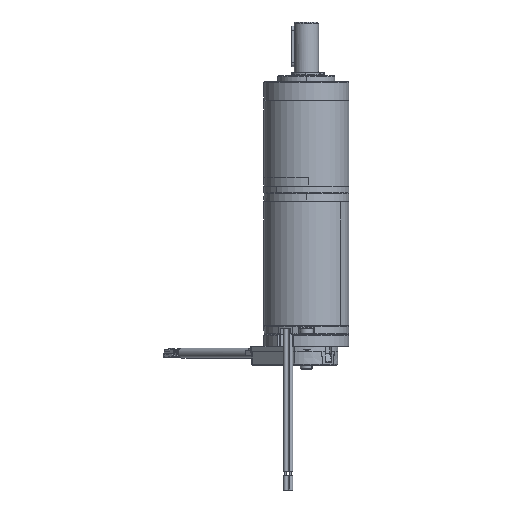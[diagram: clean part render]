
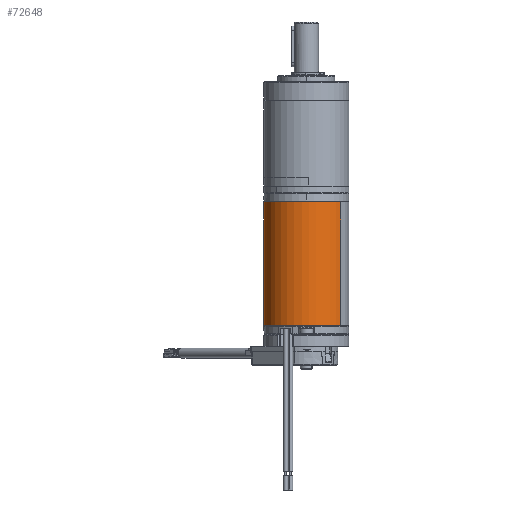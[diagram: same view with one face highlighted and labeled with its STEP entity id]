
A CAD part, left-side view. The second image highlights one B-rep face of the part: STEP entity #72648.
In plain terms, the highlighted cylindrical face has radius 21 mm (diameter 42 mm), a partial arc.
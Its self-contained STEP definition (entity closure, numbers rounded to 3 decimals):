
#993 = DIRECTION ( 'NONE',  ( 0., 0., -1. ) ) ;
#2806 = DIRECTION ( 'NONE',  ( 0., 0., -1. ) ) ;
#6337 = CARTESIAN_POINT ( 'NONE',  ( 5.131, -8.599, 22.935 ) ) ;
#9031 = ORIENTED_EDGE ( 'NONE', *, *, #141922, .F. ) ;
#9353 = ORIENTED_EDGE ( 'NONE', *, *, #127215, .T. ) ;
#33055 = FACE_OUTER_BOUND ( 'NONE', #158868, .T. ) ;
#33321 = DIRECTION ( 'NONE',  ( 0., 0., 1. ) ) ;
#39688 = VERTEX_POINT ( 'NONE', #119058 ) ;
#60987 = CARTESIAN_POINT ( 'NONE',  ( -7.378, -25.468, 61.785 ) ) ;
#62898 = CIRCLE ( 'NONE', #139431, 21. ) ;
#63348 = CARTESIAN_POINT ( 'NONE',  ( 17.639, 8.269, 1.085 ) ) ;
#72648 = ADVANCED_FACE ( 'NONE', ( #33055 ), #88424, .T. ) ;
#75133 = VERTEX_POINT ( 'NONE', #156072 ) ;
#80029 = VERTEX_POINT ( 'NONE', #60987 ) ;
#88424 = CYLINDRICAL_SURFACE ( 'NONE', #116368, 21. ) ;
#89320 = DIRECTION ( 'NONE',  ( 0., 0., -1. ) ) ;
#90583 = ORIENTED_EDGE ( 'NONE', *, *, #121015, .T. ) ;
#92246 = ORIENTED_EDGE ( 'NONE', *, *, #151448, .T. ) ;
#102980 = CIRCLE ( 'NONE', #123447, 21. ) ;
#105720 = CARTESIAN_POINT ( 'NONE',  ( 17.639, 8.269, 22.935 ) ) ;
#106729 = CARTESIAN_POINT ( 'NONE',  ( -7.378, -25.468, 22.935 ) ) ;
#107806 = VECTOR ( 'NONE', #993, 1000. ) ;
#115249 = DIRECTION ( 'NONE',  ( 0.596, 0.803, 0. ) ) ;
#116368 = AXIS2_PLACEMENT_3D ( 'NONE', #6337, #89320, #145581 ) ;
#119058 = CARTESIAN_POINT ( 'NONE',  ( 17.639, 8.269, 61.785 ) ) ;
#121015 = EDGE_CURVE ( 'NONE', #39688, #121899, #127240, .T. ) ;
#121899 = VERTEX_POINT ( 'NONE', #63348 ) ;
#123447 = AXIS2_PLACEMENT_3D ( 'NONE', #142978, #2806, #115249 ) ;
#127215 = EDGE_CURVE ( 'NONE', #121899, #75133, #62898, .T. ) ;
#127240 = LINE ( 'NONE', #105720, #107806 ) ;
#132041 = DIRECTION ( 'NONE',  ( 0.596, 0.803, 0. ) ) ;
#139431 = AXIS2_PLACEMENT_3D ( 'NONE', #158782, #33321, #132041 ) ;
#141922 = EDGE_CURVE ( 'NONE', #80029, #75133, #160230, .T. ) ;
#142978 = CARTESIAN_POINT ( 'NONE',  ( 5.131, -8.599, 61.785 ) ) ;
#145581 = DIRECTION ( 'NONE',  ( -0.596, -0.803, 0. ) ) ;
#151448 = EDGE_CURVE ( 'NONE', #80029, #39688, #102980, .T. ) ;
#156072 = CARTESIAN_POINT ( 'NONE',  ( -7.378, -25.468, 1.085 ) ) ;
#157058 = VECTOR ( 'NONE', #161180, 1000. ) ;
#158782 = CARTESIAN_POINT ( 'NONE',  ( 5.131, -8.599, 1.085 ) ) ;
#158868 = EDGE_LOOP ( 'NONE', ( #92246, #90583, #9353, #9031 ) ) ;
#160230 = LINE ( 'NONE', #106729, #157058 ) ;
#161180 = DIRECTION ( 'NONE',  ( 0., 0., -1. ) ) ;
